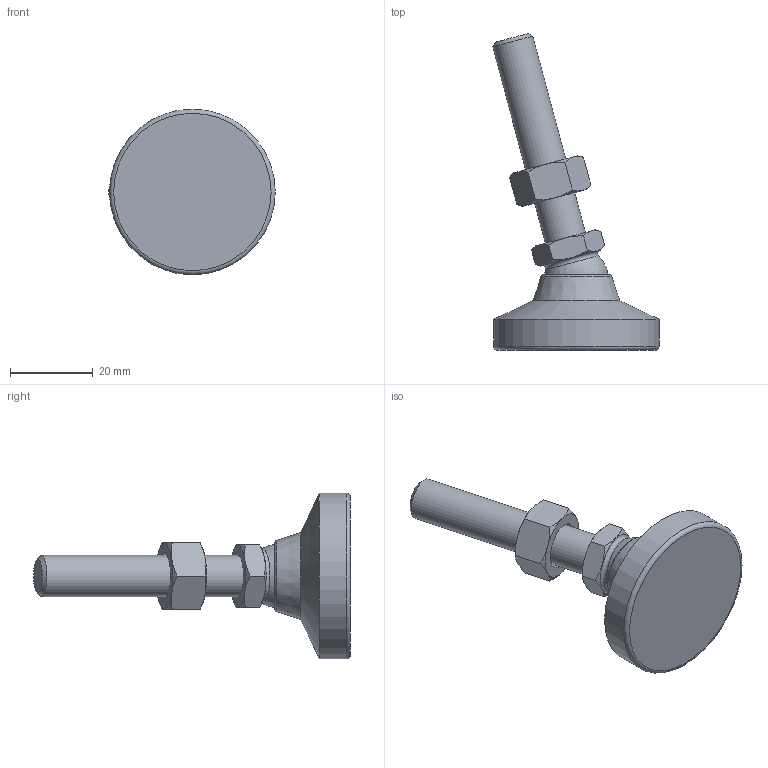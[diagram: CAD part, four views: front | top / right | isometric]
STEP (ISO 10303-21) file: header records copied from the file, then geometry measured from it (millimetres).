
FILE_DESCRIPTION( ( 'STEP AP214' ), ' ' );
FILE_NAME( 'O:/ganter_2015/teil_2/2_5/gn343_2/gn343_2_kse/Levelling foot with threaded stud GN 343.2-40-M10-50-KSE-(15).stp', '2015-10-26T09:15:56', ( '' ), ( '' ), ' ', 'PARTsolutions', ' ' );
FILE_SCHEMA( ( 'AUTOMOTIVE_DESIGN { 1 0 10303 214 1 1 1 1 }' ) );
Length unit declared in the file: millimetre
Products named in the file (4): Levelling foot with threaded stud GN 343.2-40-M10-50-KSE-(15); _Levelling foot with threaded stud GN 343.2-40-M10-50-KSE-(15)_foot; _Levelling foot with threaded stud GN 343.2-40-M10-50-KSE-(15)_screw; _Levelling foot with threaded stud GN 343.2-40-M10-50-KSE-(15)_nut
Assembly tree (3 placements, depth 2):
  Levelling foot with threaded stud GN 343.2-40-M10-50-KSE-(15)
    _Levelling foot with threaded stud GN 343.2-40-M10-50-KSE-(15)_foot
    _Levelling foot with threaded stud GN 343.2-40-M10-50-KSE-(15)_screw
    _Levelling foot with threaded stud GN 343.2-40-M10-50-KSE-(15)_nut
Bounding box: 40.19 x 76.51 x 40 mm (x, y, z)
Volume: 21473 mm3; surface area: 7638.1 mm2
Topology: 3 solids, 3 shells, 50 faces, 107 edges, 63 vertices
Faces by surface type: cone 24, plane 18, torus 3, cylinder 3, sphere 2
Full cylindrical faces by diameter (mm): 8.376 x1, 10 x1, 40 x1
Entity records: 1874 total; most frequent: CARTESIAN_POINT 468, DIRECTION 188, ORIENTED_EDGE 176, AXIS2_PLACEMENT_3D 88, EDGE_CURVE 88, EDGE_LOOP 66, VERTEX_POINT 60, FACE_OUTER_BOUND 56
